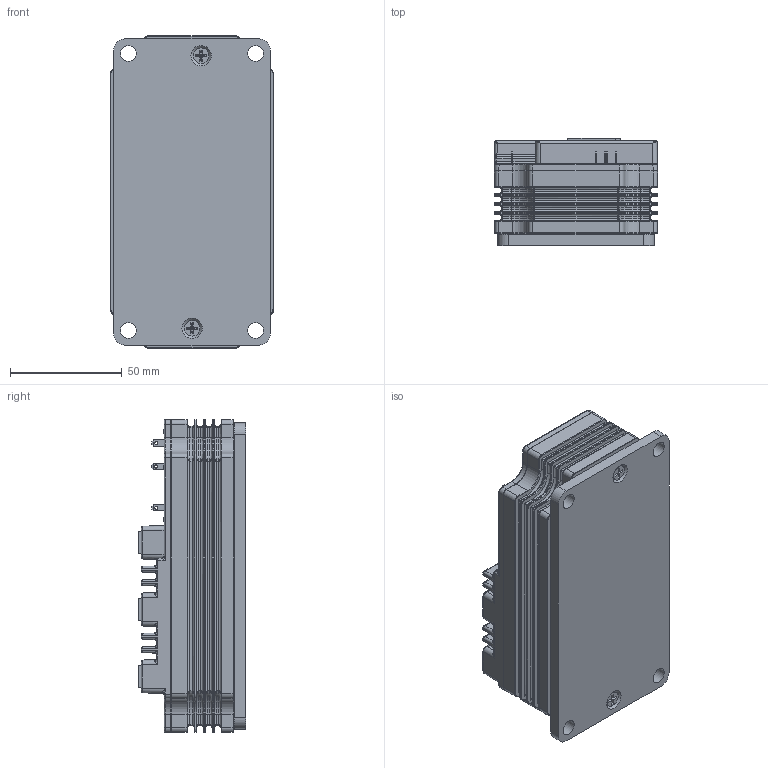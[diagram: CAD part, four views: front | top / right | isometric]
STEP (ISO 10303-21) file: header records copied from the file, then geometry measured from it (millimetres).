
FILE_DESCRIPTION (( 'STEP AP214' ), '1' );
FILE_NAME ('LD-ES-170634-MBM250H33E3.STEP', '2017-08-28T08:31:53', ( 'Flora110' ), ( '' ), 'SwSTEP 2.0', 'SolidWorks 2010', '' );
FILE_SCHEMA (( 'AUTOMOTIVE_DESIGN' ));
Products named in the file (1): LD-ES-170634-MBM250H33E3
Bounding box: 73 x 48 x 140 mm (x, y, z)
Volume: 362203.3 mm3; surface area: 78981.1 mm2
Topology: 1 solids, 1 shells, 2355 faces, 5875 edges, 3414 vertices
Faces by surface type: bspline 861, cylinder 861, plane 633
Full cylindrical faces by diameter (mm): 1.4 x5, 3.5 x2, 4.5 x2, 5 x5, 7 x6, 9.3 x2, 9.6 x2
Entity records: 91332 total; most frequent: CARTESIAN_POINT 42273, ORIENTED_EDGE 11316, DIRECTION 8578, EDGE_CURVE 5658, VERTEX_POINT 3408, AXIS2_PLACEMENT_3D 2917, VECTOR 2744, LINE 2744
